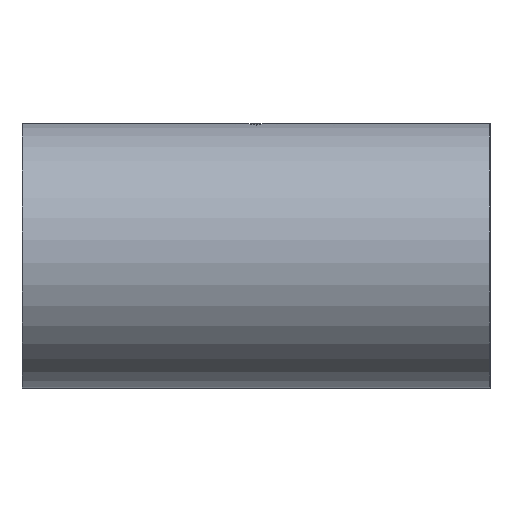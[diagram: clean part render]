
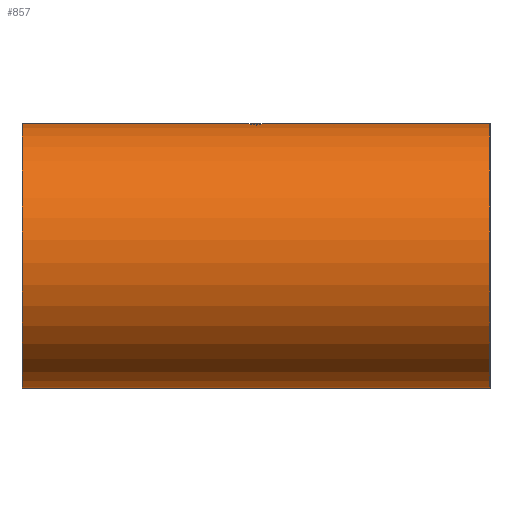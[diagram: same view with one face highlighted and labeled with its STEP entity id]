
A CAD part, left-side view. The second image highlights one B-rep face of the part: STEP entity #857.
In plain terms, the highlighted cylindrical face has radius 17 mm (diameter 34 mm), a partial arc.
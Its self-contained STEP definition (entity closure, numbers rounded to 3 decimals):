
#20 = CARTESIAN_POINT ( 'NONE',  ( -100.926, 31.438, 16.975 ) ) ;
#22 = DIRECTION ( 'NONE',  ( 0., -1., 0. ) ) ;
#45 = CARTESIAN_POINT ( 'NONE',  ( -100.733, 31.518, 16.984 ) ) ;
#80 = ORIENTED_EDGE ( 'NONE', *, *, #3687, .F. ) ;
#166 = EDGE_LOOP ( 'NONE', ( #80, #3863 ) ) ;
#265 = CARTESIAN_POINT ( 'NONE',  ( -99.416, 28.612, 16.99 ) ) ;
#277 = CARTESIAN_POINT ( 'NONE',  ( -98.938, 30.983, 16.967 ) ) ;
#291 = CARTESIAN_POINT ( 'NONE',  ( -101.655, 29.29, 16.919 ) ) ;
#308 = DIRECTION ( 'NONE',  ( 0., 1., 0. ) ) ;
#314 = CARTESIAN_POINT ( 'NONE',  ( -101.736, 29.484, 16.911 ) ) ;
#374 = CYLINDRICAL_SURFACE ( 'NONE', #1704, 17. ) ;
#429 = CARTESIAN_POINT ( 'NONE',  ( -101.274, 31.206, 16.952 ) ) ;
#497 = CARTESIAN_POINT ( 'NONE',  ( -100., 60., -17. ) ) ;
#543 = LINE ( 'NONE', #2893, #4060 ) ;
#616 = CARTESIAN_POINT ( 'NONE',  ( -98.617, 30.209, 16.944 ) ) ;
#649 = CARTESIAN_POINT ( 'NONE',  ( -100.638, 28.442, 16.989 ) ) ;
#719 = CARTESIAN_POINT ( 'NONE',  ( -101.201, 28.721, 16.958 ) ) ;
#728 = CARTESIAN_POINT ( 'NONE',  ( -100.323, 31.6, 16.997 ) ) ;
#784 = DIRECTION ( 'NONE',  ( 0., 1., 0. ) ) ;
#857 = ADVANCED_FACE ( 'NONE', ( #1913, #2455 ), #374, .T. ) ;
#993 = DIRECTION ( 'NONE',  ( 0., 0., 1. ) ) ;
#1040 = CARTESIAN_POINT ( 'NONE',  ( -99.703, 28.481, 16.998 ) ) ;
#1080 = CARTESIAN_POINT ( 'NONE',  ( -101.496, 30.985, 16.935 ) ) ;
#1096 = CARTESIAN_POINT ( 'NONE',  ( -98.669, 29.584, 16.948 ) ) ;
#1130 = CARTESIAN_POINT ( 'NONE',  ( -101.775, 30.422, 16.907 ) ) ;
#1157 = CARTESIAN_POINT ( 'NONE',  ( -101.018, 31.389, 16.97 ) ) ;
#1181 = CARTESIAN_POINT ( 'NONE',  ( -101.615, 30.806, 16.923 ) ) ;
#1212 = CARTESIAN_POINT ( 'NONE',  ( -100., 60., -17. ) ) ;
#1275 = EDGE_CURVE ( 'NONE', #4162, #1625, #3560, .T. ) ;
#1414 = CARTESIAN_POINT ( 'NONE',  ( -83.87, 0., 5.368 ) ) ;
#1418 = CARTESIAN_POINT ( 'NONE',  ( -98.946, 29.024, 16.967 ) ) ;
#1466 = CARTESIAN_POINT ( 'NONE',  ( -99.803, 28.451, 16.999 ) ) ;
#1510 = CIRCLE ( 'NONE', #1845, 17. ) ;
#1612 = CARTESIAN_POINT ( 'NONE',  ( -100., 0., 0. ) ) ;
#1625 = VERTEX_POINT ( 'NONE', #2212 ) ;
#1657 = VERTEX_POINT ( 'NONE', #3475 ) ;
#1687 = EDGE_CURVE ( 'NONE', #1625, #4015, #1510, .T. ) ;
#1704 = AXIS2_PLACEMENT_3D ( 'NONE', #4571, #22, #3113 ) ;
#1744 = DIRECTION ( 'NONE',  ( 0., 1., 0. ) ) ;
#1766 = CARTESIAN_POINT ( 'NONE',  ( -99.242, 31.272, 16.983 ) ) ;
#1816 = EDGE_CURVE ( 'NONE', #4015, #3405, #543, .T. ) ;
#1829 = CARTESIAN_POINT ( 'NONE',  ( -101.807, 29.79, 16.904 ) ) ;
#1845 = AXIS2_PLACEMENT_3D ( 'NONE', #1612, #784, #2795 ) ;
#1852 = CARTESIAN_POINT ( 'NONE',  ( -101.606, 29.198, 16.924 ) ) ;
#1913 = FACE_OUTER_BOUND ( 'NONE', #4954, .T. ) ;
#1928 = DIRECTION ( 'NONE',  ( 0., -1., 0. ) ) ;
#1992 = ORIENTED_EDGE ( 'NONE', *, *, #1687, .T. ) ;
#2155 = CARTESIAN_POINT ( 'NONE',  ( -98.819, 30.805, 16.959 ) ) ;
#2172 = ORIENTED_EDGE ( 'NONE', *, *, #1275, .T. ) ;
#2199 = CARTESIAN_POINT ( 'NONE',  ( -98.659, 30.419, 16.947 ) ) ;
#2212 = CARTESIAN_POINT ( 'NONE',  ( -100., 0., -17. ) ) ;
#2216 = CARTESIAN_POINT ( 'NONE',  ( -98.699, 29.485, 16.95 ) ) ;
#2277 = CARTESIAN_POINT ( 'NONE',  ( -100.631, 31.549, 16.989 ) ) ;
#2422 = VECTOR ( 'NONE', #1928, 1000. ) ;
#2451 = ORIENTED_EDGE ( 'NONE', *, *, #1816, .T. ) ;
#2455 = FACE_BOUND ( 'NONE', #166, .T. ) ;
#2542 = B_SPLINE_CURVE_WITH_KNOTS ( 'NONE', 3,
 ( #4123, #3783, #1829, #2572, #314, #291, #1852, #4099, #3381, #719, #3409, #649, #4939, #3736, #4963, #1466, #1040, #2928, #265, #3028, #4887, #2651, #1418, #4559, #2596, #2216, #1096, #4912, #2974, #4508 ),
 .UNSPECIFIED., .F., .F.,
 ( 4, 2, 2, 2, 2, 2, 2, 2, 2, 2, 2, 2, 2, 2, 4 ),
 ( 0., 0., 0.001, 0.001, 0.001, 0.002, 0.003, 0.003, 0.003, 0.003, 0.004, 0.004, 0.004, 0.005, 0.005 ),
 .UNSPECIFIED. ) ;
#2572 = CARTESIAN_POINT ( 'NONE',  ( -101.766, 29.586, 16.908 ) ) ;
#2596 = CARTESIAN_POINT ( 'NONE',  ( -98.779, 29.291, 16.956 ) ) ;
#2644 = CARTESIAN_POINT ( 'NONE',  ( -100., 60., 0. ) ) ;
#2651 = CARTESIAN_POINT ( 'NONE',  ( -99.012, 28.943, 16.971 ) ) ;
#2795 = DIRECTION ( 'NONE',  ( 0., 0., 1. ) ) ;
#2798 = VERTEX_POINT ( 'NONE', #4803 ) ;
#2834 = B_SPLINE_CURVE_WITH_KNOTS ( 'NONE', 3,
 ( #4875, #616, #2199, #2155, #277, #4894, #1766, #2985, #3318, #4472, #4516, #3013, #4547, #728, #3888, #2277, #45, #20, #1157, #3818, #429, #1080, #1181, #1130, #3792, #3039 ),
 .UNSPECIFIED., .F., .F.,
 ( 4, 2, 2, 2, 2, 2, 2, 2, 2, 2, 2, 2, 4 ),
 ( 0.005, 0.006, 0.006, 0.007, 0.007, 0.007, 0.008, 0.008, 0.008, 0.008, 0.009, 0.009, 0.01 ),
 .UNSPECIFIED. ) ;
#2893 = CARTESIAN_POINT ( 'NONE',  ( -83.87, 60., 5.368 ) ) ;
#2928 = CARTESIAN_POINT ( 'NONE',  ( -99.509, 28.561, 16.993 ) ) ;
#2974 = CARTESIAN_POINT ( 'NONE',  ( -98.617, 29.896, 16.944 ) ) ;
#2985 = CARTESIAN_POINT ( 'NONE',  ( -99.415, 31.388, 16.99 ) ) ;
#3013 = CARTESIAN_POINT ( 'NONE',  ( -100.007, 31.59, 17. ) ) ;
#3028 = CARTESIAN_POINT ( 'NONE',  ( -99.242, 28.727, 16.983 ) ) ;
#3039 = CARTESIAN_POINT ( 'NONE',  ( -101.817, 30., 16.903 ) ) ;
#3113 = DIRECTION ( 'NONE',  ( 0., 0., -1. ) ) ;
#3122 = ORIENTED_EDGE ( 'NONE', *, *, #3917, .F. ) ;
#3318 = CARTESIAN_POINT ( 'NONE',  ( -99.507, 31.438, 16.993 ) ) ;
#3381 = CARTESIAN_POINT ( 'NONE',  ( -101.423, 28.942, 16.941 ) ) ;
#3405 = VERTEX_POINT ( 'NONE', #3837 ) ;
#3409 = CARTESIAN_POINT ( 'NONE',  ( -101.023, 28.602, 16.97 ) ) ;
#3416 = AXIS2_PLACEMENT_3D ( 'NONE', #2644, #308, #993 ) ;
#3475 = CARTESIAN_POINT ( 'NONE',  ( -101.817, 30., 16.903 ) ) ;
#3560 = LINE ( 'NONE', #497, #2422 ) ;
#3687 = EDGE_CURVE ( 'NONE', #1657, #2798, #2542, .T. ) ;
#3736 = CARTESIAN_POINT ( 'NONE',  ( -100.114, 28.4, 17. ) ) ;
#3783 = CARTESIAN_POINT ( 'NONE',  ( -101.817, 29.894, 16.903 ) ) ;
#3792 = CARTESIAN_POINT ( 'NONE',  ( -101.817, 30.212, 16.903 ) ) ;
#3818 = CARTESIAN_POINT ( 'NONE',  ( -101.192, 31.273, 16.958 ) ) ;
#3837 = CARTESIAN_POINT ( 'NONE',  ( -83.87, 60., 5.368 ) ) ;
#3863 = ORIENTED_EDGE ( 'NONE', *, *, #4415, .F. ) ;
#3888 = CARTESIAN_POINT ( 'NONE',  ( -100.427, 31.59, 16.995 ) ) ;
#3917 = EDGE_CURVE ( 'NONE', #4162, #3405, #4454, .T. ) ;
#4015 = VERTEX_POINT ( 'NONE', #1414 ) ;
#4060 = VECTOR ( 'NONE', #1744, 1000. ) ;
#4099 = CARTESIAN_POINT ( 'NONE',  ( -101.49, 29.025, 16.935 ) ) ;
#4123 = CARTESIAN_POINT ( 'NONE',  ( -101.817, 30., 16.903 ) ) ;
#4162 = VERTEX_POINT ( 'NONE', #1212 ) ;
#4415 = EDGE_CURVE ( 'NONE', #2798, #1657, #2834, .T. ) ;
#4454 = CIRCLE ( 'NONE', #3416, 17. ) ;
#4472 = CARTESIAN_POINT ( 'NONE',  ( -99.701, 31.518, 16.998 ) ) ;
#4508 = CARTESIAN_POINT ( 'NONE',  ( -98.617, 30., 16.944 ) ) ;
#4516 = CARTESIAN_POINT ( 'NONE',  ( -99.803, 31.549, 16.999 ) ) ;
#4547 = CARTESIAN_POINT ( 'NONE',  ( -100.111, 31.6, 17. ) ) ;
#4559 = CARTESIAN_POINT ( 'NONE',  ( -98.83, 29.197, 16.96 ) ) ;
#4571 = CARTESIAN_POINT ( 'NONE',  ( -100., 60., 0. ) ) ;
#4803 = CARTESIAN_POINT ( 'NONE',  ( -98.617, 30., 16.944 ) ) ;
#4875 = CARTESIAN_POINT ( 'NONE',  ( -98.617, 30., 16.944 ) ) ;
#4887 = CARTESIAN_POINT ( 'NONE',  ( -99.161, 28.794, 16.979 ) ) ;
#4894 = CARTESIAN_POINT ( 'NONE',  ( -99.159, 31.205, 16.979 ) ) ;
#4912 = CARTESIAN_POINT ( 'NONE',  ( -98.628, 29.789, 16.945 ) ) ;
#4939 = CARTESIAN_POINT ( 'NONE',  ( -100.428, 28.4, 16.996 ) ) ;
#4954 = EDGE_LOOP ( 'NONE', ( #1992, #2451, #3122, #2172 ) ) ;
#4963 = CARTESIAN_POINT ( 'NONE',  ( -100.008, 28.41, 17. ) ) ;
